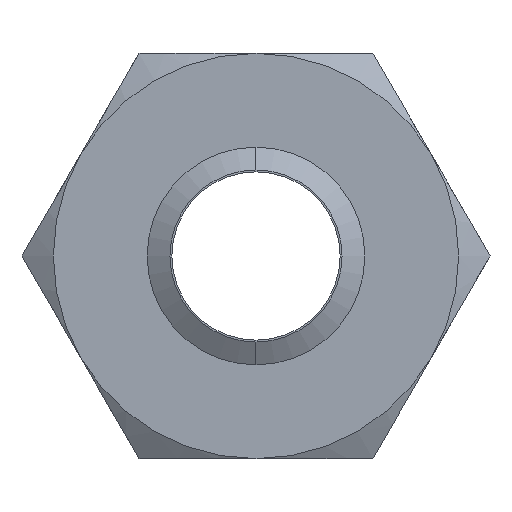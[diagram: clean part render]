
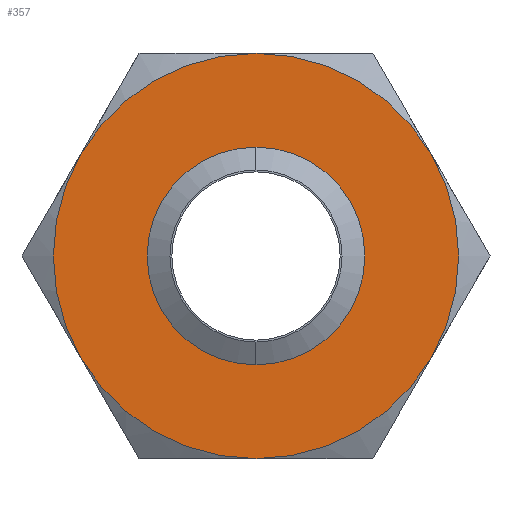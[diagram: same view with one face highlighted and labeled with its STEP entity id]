
A CAD part, front view. The second image highlights one B-rep face of the part: STEP entity #357.
In plain terms, the highlighted planar face has unit normal (0, -1, 0).
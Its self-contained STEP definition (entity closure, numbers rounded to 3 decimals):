
#188 = EDGE_CURVE ( 'NONE', #1999, #2000, #833, .T. ) ;
#345 = EDGE_LOOP ( 'NONE', ( #348, #1907, #1904, #1009, #1108, #1297 ) ) ;
#346 = EDGE_CURVE ( 'NONE', #1887, #988, #1114, .T. ) ;
#348 = ORIENTED_EDGE ( 'NONE', *, *, #346, .F. ) ;
#357 = ADVANCED_FACE ( 'NONE', ( #1151, #1150 ), #1149, .F. ) ;
#431 = EDGE_LOOP ( 'NONE', ( #432, #1909 ) ) ;
#432 = ORIENTED_EDGE ( 'NONE', *, *, #188, .F. ) ;
#829 = DIRECTION ( 'NONE',  ( 0., 0., -1. ) ) ;
#830 = DIRECTION ( 'NONE',  ( 0., -1., 0. ) ) ;
#831 = CARTESIAN_POINT ( 'NONE',  ( 0., 0., 0. ) ) ;
#832 = AXIS2_PLACEMENT_3D ( 'NONE', #831, #830, #829 ) ;
#833 = CIRCLE ( 'NONE', #832, 13.802 ) ;
#988 = VERTEX_POINT ( 'NONE', #1340 ) ;
#1007 = VERTEX_POINT ( 'NONE', #1339 ) ;
#1009 = ORIENTED_EDGE ( 'NONE', *, *, #1903, .F. ) ;
#1070 = VERTEX_POINT ( 'NONE', #1338 ) ;
#1104 = DIRECTION ( 'NONE',  ( 0., 0., 1. ) ) ;
#1105 = DIRECTION ( 'NONE',  ( 0., 1., 0. ) ) ;
#1106 = CARTESIAN_POINT ( 'NONE',  ( 0., 0., 0. ) ) ;
#1107 = AXIS2_PLACEMENT_3D ( 'NONE', #1106, #1105, #1104 ) ;
#1108 = ORIENTED_EDGE ( 'NONE', *, *, #1548, .F. ) ;
#1114 = CIRCLE ( 'NONE', #1107, 32.5 ) ;
#1144 = DIRECTION ( 'NONE',  ( 0., 0., 1. ) ) ;
#1145 = DIRECTION ( 'NONE',  ( 0., 1., 0. ) ) ;
#1146 = CARTESIAN_POINT ( 'NONE',  ( 18.764, 0., -32.5 ) ) ;
#1147 = AXIS2_PLACEMENT_3D ( 'NONE', #1146, #1145, #1144 ) ;
#1149 = PLANE ( 'NONE',  #1147 ) ;
#1150 = FACE_BOUND ( 'NONE', #431, .T. ) ;
#1151 = FACE_OUTER_BOUND ( 'NONE', #345, .T. ) ;
#1297 = ORIENTED_EDGE ( 'NONE', *, *, #1311, .F. ) ;
#1311 = EDGE_CURVE ( 'NONE', #988, #1393, #1336, .T. ) ;
#1315 = DIRECTION ( 'NONE',  ( 0., 0., 1. ) ) ;
#1316 = DIRECTION ( 'NONE',  ( 0., 1., 0. ) ) ;
#1317 = CARTESIAN_POINT ( 'NONE',  ( 0., 0., 0. ) ) ;
#1318 = AXIS2_PLACEMENT_3D ( 'NONE', #1317, #1316, #1315 ) ;
#1319 = CIRCLE ( 'NONE', #1318, 32.5 ) ;
#1320 = CARTESIAN_POINT ( 'NONE',  ( -28.146, 0., 16.25 ) ) ;
#1321 = DIRECTION ( 'NONE',  ( 0., 0., 1. ) ) ;
#1322 = DIRECTION ( 'NONE',  ( 0., 1., 0. ) ) ;
#1323 = CARTESIAN_POINT ( 'NONE',  ( 0., 0., 0. ) ) ;
#1324 = AXIS2_PLACEMENT_3D ( 'NONE', #1323, #1322, #1321 ) ;
#1325 = CIRCLE ( 'NONE', #1324, 32.5 ) ;
#1326 = DIRECTION ( 'NONE',  ( 0., 0., 1. ) ) ;
#1327 = DIRECTION ( 'NONE',  ( 0., 1., 0. ) ) ;
#1328 = CARTESIAN_POINT ( 'NONE',  ( 0., 0., 0. ) ) ;
#1329 = AXIS2_PLACEMENT_3D ( 'NONE', #1328, #1327, #1326 ) ;
#1330 = CIRCLE ( 'NONE', #1329, 32.5 ) ;
#1331 = CARTESIAN_POINT ( 'NONE',  ( 0., 0., 32.5 ) ) ;
#1332 = DIRECTION ( 'NONE',  ( 0., 0., 1. ) ) ;
#1333 = DIRECTION ( 'NONE',  ( 0., 1., 0. ) ) ;
#1334 = CARTESIAN_POINT ( 'NONE',  ( 0., 0., 0. ) ) ;
#1335 = AXIS2_PLACEMENT_3D ( 'NONE', #1334, #1333, #1332 ) ;
#1336 = CIRCLE ( 'NONE', #1335, 32.5 ) ;
#1337 = CARTESIAN_POINT ( 'NONE',  ( 28.146, 0., -16.25 ) ) ;
#1338 = CARTESIAN_POINT ( 'NONE',  ( 0., 0., -32.5 ) ) ;
#1339 = CARTESIAN_POINT ( 'NONE',  ( -28.146, 0., -16.25 ) ) ;
#1340 = CARTESIAN_POINT ( 'NONE',  ( 28.146, 0., 16.25 ) ) ;
#1367 = DIRECTION ( 'NONE',  ( 0., 0., -1. ) ) ;
#1368 = DIRECTION ( 'NONE',  ( 0., -1., 0. ) ) ;
#1369 = CARTESIAN_POINT ( 'NONE',  ( 0., 0., 0. ) ) ;
#1370 = AXIS2_PLACEMENT_3D ( 'NONE', #1369, #1368, #1367 ) ;
#1371 = CIRCLE ( 'NONE', #1370, 13.802 ) ;
#1372 = DIRECTION ( 'NONE',  ( 0., 0., 1. ) ) ;
#1373 = DIRECTION ( 'NONE',  ( 0., 1., 0. ) ) ;
#1374 = CARTESIAN_POINT ( 'NONE',  ( 0., 0., 0. ) ) ;
#1375 = AXIS2_PLACEMENT_3D ( 'NONE', #1374, #1373, #1372 ) ;
#1376 = CIRCLE ( 'NONE', #1375, 32.5 ) ;
#1393 = VERTEX_POINT ( 'NONE', #1337 ) ;
#1487 = CARTESIAN_POINT ( 'NONE',  ( 0., 0., 13.802 ) ) ;
#1488 = CARTESIAN_POINT ( 'NONE',  ( 0., 0., -13.802 ) ) ;
#1548 = EDGE_CURVE ( 'NONE', #1393, #1070, #1330, .T. ) ;
#1887 = VERTEX_POINT ( 'NONE', #1331 ) ;
#1903 = EDGE_CURVE ( 'NONE', #1070, #1007, #1325, .T. ) ;
#1904 = ORIENTED_EDGE ( 'NONE', *, *, #1906, .F. ) ;
#1905 = VERTEX_POINT ( 'NONE', #1320 ) ;
#1906 = EDGE_CURVE ( 'NONE', #1007, #1905, #1319, .T. ) ;
#1907 = ORIENTED_EDGE ( 'NONE', *, *, #1908, .F. ) ;
#1908 = EDGE_CURVE ( 'NONE', #1905, #1887, #1376, .T. ) ;
#1909 = ORIENTED_EDGE ( 'NONE', *, *, #1910, .F. ) ;
#1910 = EDGE_CURVE ( 'NONE', #2000, #1999, #1371, .T. ) ;
#1999 = VERTEX_POINT ( 'NONE', #1488 ) ;
#2000 = VERTEX_POINT ( 'NONE', #1487 ) ;
